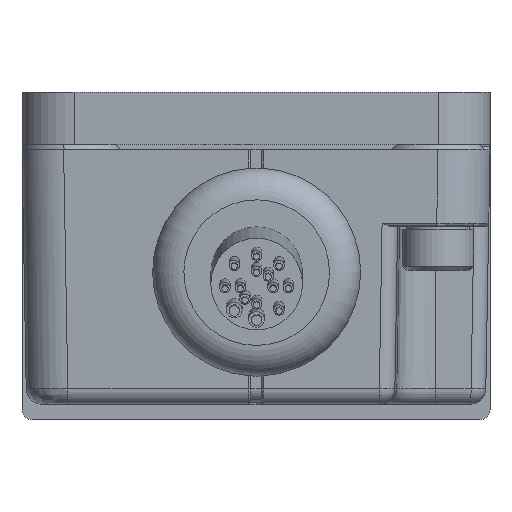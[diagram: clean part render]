
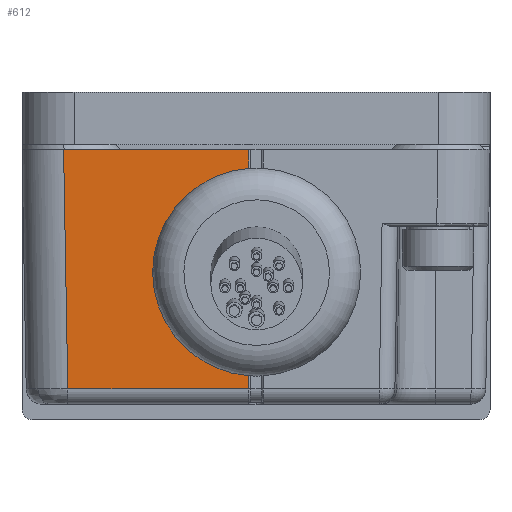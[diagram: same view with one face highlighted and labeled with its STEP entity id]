
A CAD part, front view. The second image highlights one B-rep face of the part: STEP entity #612.
In plain terms, the highlighted planar face has unit normal (0, -1, -0.018).
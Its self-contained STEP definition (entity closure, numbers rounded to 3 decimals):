
#612=ADVANCED_FACE('NONE',(#1419),#1420,.T.);
#1419=FACE_OUTER_BOUND('',#2723,.T.);
#1420=PLANE('',#2724);
#2723=EDGE_LOOP('',(#4316,#4317,#4318,#4319,#4320,#4321));
#2724=AXIS2_PLACEMENT_3D('',#4322,#4323,#4324);
#4316=ORIENTED_EDGE('',*,*,#5274,.T.);
#4317=ORIENTED_EDGE('',*,*,#5611,.T.);
#4318=ORIENTED_EDGE('',*,*,#5332,.T.);
#4319=ORIENTED_EDGE('',*,*,#5467,.T.);
#4320=ORIENTED_EDGE('',*,*,#5449,.T.);
#4321=ORIENTED_EDGE('',*,*,#5721,.T.);
#4322=CARTESIAN_POINT('',(22.5,-57.0,17.0));
#4323=DIRECTION('',(0.0,-1.,-0.017));
#4324=DIRECTION('',(0.0,0.017,-1.));
#5274=EDGE_CURVE('NONE',#6133,#6131,#6134,.T.);
#5332=EDGE_CURVE('NONE',#6216,#6223,#6225,.T.);
#5449=EDGE_CURVE('NONE',#6404,#6367,#6405,.T.);
#5467=EDGE_CURVE('NONE',#6223,#6404,#6433,.T.);
#5611=EDGE_CURVE('NONE',#6131,#6216,#6653,.T.);
#5721=EDGE_CURVE('NONE',#6367,#6133,#6793,.T.);
#6131=VERTEX_POINT('NONE',#7498);
#6133=VERTEX_POINT('NONE',#7501);
#6134=LINE('',#7502,#7503);
#6216=VERTEX_POINT('NONE',#7629);
#6223=VERTEX_POINT('NONE',#7646);
#6225=LINE('',#7658,#7659);
#6367=VERTEX_POINT('NONE',#7931);
#6404=VERTEX_POINT('NONE',#8056);
#6405=LINE('',#8057,#8058);
#6433=LINE('',#8124,#8125);
#6653=CIRCLE('',#8541,10.0);
#6793=LINE('',#8711,#8712);
#7498=CARTESIAN_POINT('',(-0.7,-56.62,-4.764));
#7501=CARTESIAN_POINT('',(-0.7,-56.598,-6.026));
#7502=CARTESIAN_POINT('',(-0.7,-57.,16.997));
#7503=VECTOR('',#9235,1.0);
#7629=CARTESIAN_POINT('',(-0.7,-56.968,15.175));
#7646=CARTESIAN_POINT('',(-0.7,-57.0,17.0));
#7658=CARTESIAN_POINT('',(-0.7,-57.,16.997));
#7659=VECTOR('',#9328,1.0);
#7931=CARTESIAN_POINT('',(-18.099,-56.598,-6.026));
#8056=CARTESIAN_POINT('',(-18.501,-57.0,17.0));
#8057=CARTESIAN_POINT('',(-18.488,-56.988,16.285));
#8058=VECTOR('',#9478,1.0);
#8124=CARTESIAN_POINT('',(22.5,-57.0,17.0));
#8125=VECTOR('',#9496,1.0);
#8541=AXIS2_PLACEMENT_3D('',#9696,#9697,#9698);
#8711=CARTESIAN_POINT('',(22.5,-56.598,-6.026));
#8712=VECTOR('',#9834,1.0);
#9235=DIRECTION('',(0.0,-0.017,1.));
#9328=DIRECTION('',(0.0,-0.017,1.));
#9478=DIRECTION('',(0.017,0.017,-1.));
#9496=DIRECTION('',(-1.0,0.0,0.0));
#9696=CARTESIAN_POINT('',(0.063,-56.794,5.205));
#9697=DIRECTION('',(0.,1.,0.017));
#9698=DIRECTION('',(-0.017,0.017,-1.));
#9834=DIRECTION('',(1.0,0.0,0.0));
